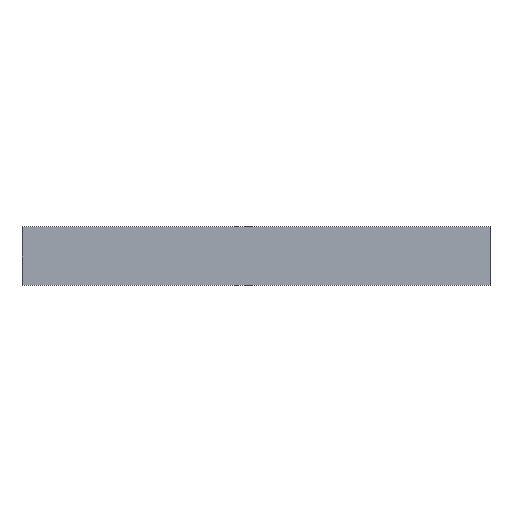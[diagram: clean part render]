
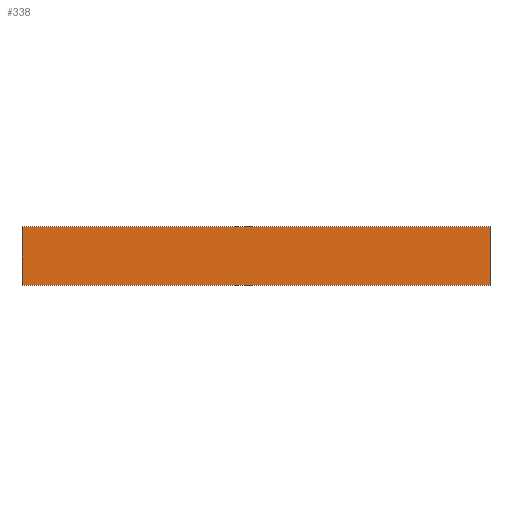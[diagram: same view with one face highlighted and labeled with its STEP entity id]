
A CAD part, top view. The second image highlights one B-rep face of the part: STEP entity #338.
In plain terms, the highlighted planar face has unit normal (0, 0, 1).
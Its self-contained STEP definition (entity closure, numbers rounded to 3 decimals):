
#24 = VERTEX_POINT('',#25);
#25 = CARTESIAN_POINT('',(-595.,-75.,6.));
#32 = PLANE('',#33);
#33 = AXIS2_PLACEMENT_3D('',#34,#35,#36);
#34 = CARTESIAN_POINT('',(-595.,-75.,0.));
#35 = DIRECTION('',(0.,1.,0.));
#36 = DIRECTION('',(1.,0.,0.));
#44 = PLANE('',#45);
#45 = AXIS2_PLACEMENT_3D('',#46,#47,#48);
#46 = CARTESIAN_POINT('',(-595.,75.,0.));
#47 = DIRECTION('',(1.,0.,-0.));
#48 = DIRECTION('',(0.,-1.,0.));
#56 = EDGE_CURVE('',#24,#57,#59,.T.);
#57 = VERTEX_POINT('',#58);
#58 = CARTESIAN_POINT('',(595.,-75.,6.));
#59 = SURFACE_CURVE('',#60,(#64,#71),.PCURVE_S1.);
#60 = LINE('',#61,#62);
#61 = CARTESIAN_POINT('',(-595.,-75.,6.));
#62 = VECTOR('',#63,1.);
#63 = DIRECTION('',(1.,0.,0.));
#64 = PCURVE('',#32,#65);
#65 = DEFINITIONAL_REPRESENTATION('',(#66),#70);
#66 = LINE('',#67,#68);
#67 = CARTESIAN_POINT('',(0.,-6.));
#68 = VECTOR('',#69,1.);
#69 = DIRECTION('',(1.,0.));
#70 = ( GEOMETRIC_REPRESENTATION_CONTEXT(2) 
PARAMETRIC_REPRESENTATION_CONTEXT() REPRESENTATION_CONTEXT('2D SPACE',''
  ) );
#71 = PCURVE('',#72,#77);
#72 = PLANE('',#73);
#73 = AXIS2_PLACEMENT_3D('',#74,#75,#76);
#74 = CARTESIAN_POINT('',(0.,0.,6.));
#75 = DIRECTION('',(0.,0.,1.));
#76 = DIRECTION('',(1.,0.,-0.));
#77 = DEFINITIONAL_REPRESENTATION('',(#78),#82);
#78 = LINE('',#79,#80);
#79 = CARTESIAN_POINT('',(-595.,-75.));
#80 = VECTOR('',#81,1.);
#81 = DIRECTION('',(1.,0.));
#82 = ( GEOMETRIC_REPRESENTATION_CONTEXT(2) 
PARAMETRIC_REPRESENTATION_CONTEXT() REPRESENTATION_CONTEXT('2D SPACE',''
  ) );
#100 = PLANE('',#101);
#101 = AXIS2_PLACEMENT_3D('',#102,#103,#104);
#102 = CARTESIAN_POINT('',(595.,-75.,0.));
#103 = DIRECTION('',(-1.,0.,0.));
#104 = DIRECTION('',(0.,1.,0.));
#142 = EDGE_CURVE('',#57,#143,#145,.T.);
#143 = VERTEX_POINT('',#144);
#144 = CARTESIAN_POINT('',(595.,75.,6.));
#145 = SURFACE_CURVE('',#146,(#150,#157),.PCURVE_S1.);
#146 = LINE('',#147,#148);
#147 = CARTESIAN_POINT('',(595.,-75.,6.));
#148 = VECTOR('',#149,1.);
#149 = DIRECTION('',(0.,1.,0.));
#150 = PCURVE('',#100,#151);
#151 = DEFINITIONAL_REPRESENTATION('',(#152),#156);
#152 = LINE('',#153,#154);
#153 = CARTESIAN_POINT('',(0.,-6.));
#154 = VECTOR('',#155,1.);
#155 = DIRECTION('',(1.,0.));
#156 = ( GEOMETRIC_REPRESENTATION_CONTEXT(2) 
PARAMETRIC_REPRESENTATION_CONTEXT() REPRESENTATION_CONTEXT('2D SPACE',''
  ) );
#157 = PCURVE('',#72,#158);
#158 = DEFINITIONAL_REPRESENTATION('',(#159),#163);
#159 = LINE('',#160,#161);
#160 = CARTESIAN_POINT('',(595.,-75.));
#161 = VECTOR('',#162,1.);
#162 = DIRECTION('',(0.,1.));
#163 = ( GEOMETRIC_REPRESENTATION_CONTEXT(2) 
PARAMETRIC_REPRESENTATION_CONTEXT() REPRESENTATION_CONTEXT('2D SPACE',''
  ) );
#181 = PLANE('',#182);
#182 = AXIS2_PLACEMENT_3D('',#183,#184,#185);
#183 = CARTESIAN_POINT('',(595.,75.,0.));
#184 = DIRECTION('',(0.,-1.,0.));
#185 = DIRECTION('',(-1.,0.,0.));
#218 = EDGE_CURVE('',#143,#219,#221,.T.);
#219 = VERTEX_POINT('',#220);
#220 = CARTESIAN_POINT('',(-595.,75.,6.));
#221 = SURFACE_CURVE('',#222,(#226,#233),.PCURVE_S1.);
#222 = LINE('',#223,#224);
#223 = CARTESIAN_POINT('',(595.,75.,6.));
#224 = VECTOR('',#225,1.);
#225 = DIRECTION('',(-1.,0.,0.));
#226 = PCURVE('',#181,#227);
#227 = DEFINITIONAL_REPRESENTATION('',(#228),#232);
#228 = LINE('',#229,#230);
#229 = CARTESIAN_POINT('',(0.,-6.));
#230 = VECTOR('',#231,1.);
#231 = DIRECTION('',(1.,0.));
#232 = ( GEOMETRIC_REPRESENTATION_CONTEXT(2) 
PARAMETRIC_REPRESENTATION_CONTEXT() REPRESENTATION_CONTEXT('2D SPACE',''
  ) );
#233 = PCURVE('',#72,#234);
#234 = DEFINITIONAL_REPRESENTATION('',(#235),#239);
#235 = LINE('',#236,#237);
#236 = CARTESIAN_POINT('',(595.,75.));
#237 = VECTOR('',#238,1.);
#238 = DIRECTION('',(-1.,0.));
#239 = ( GEOMETRIC_REPRESENTATION_CONTEXT(2) 
PARAMETRIC_REPRESENTATION_CONTEXT() REPRESENTATION_CONTEXT('2D SPACE',''
  ) );
#289 = EDGE_CURVE('',#219,#24,#290,.T.);
#290 = SURFACE_CURVE('',#291,(#295,#302),.PCURVE_S1.);
#291 = LINE('',#292,#293);
#292 = CARTESIAN_POINT('',(-595.,75.,6.));
#293 = VECTOR('',#294,1.);
#294 = DIRECTION('',(0.,-1.,0.));
#295 = PCURVE('',#44,#296);
#296 = DEFINITIONAL_REPRESENTATION('',(#297),#301);
#297 = LINE('',#298,#299);
#298 = CARTESIAN_POINT('',(0.,-6.));
#299 = VECTOR('',#300,1.);
#300 = DIRECTION('',(1.,0.));
#301 = ( GEOMETRIC_REPRESENTATION_CONTEXT(2) 
PARAMETRIC_REPRESENTATION_CONTEXT() REPRESENTATION_CONTEXT('2D SPACE',''
  ) );
#302 = PCURVE('',#72,#303);
#303 = DEFINITIONAL_REPRESENTATION('',(#304),#308);
#304 = LINE('',#305,#306);
#305 = CARTESIAN_POINT('',(-595.,75.));
#306 = VECTOR('',#307,1.);
#307 = DIRECTION('',(0.,-1.));
#308 = ( GEOMETRIC_REPRESENTATION_CONTEXT(2) 
PARAMETRIC_REPRESENTATION_CONTEXT() REPRESENTATION_CONTEXT('2D SPACE',''
  ) );
#338 = ADVANCED_FACE('',(#339),#72,.T.);
#339 = FACE_BOUND('',#340,.T.);
#340 = EDGE_LOOP('',(#341,#342,#343,#344));
#341 = ORIENTED_EDGE('',*,*,#56,.T.);
#342 = ORIENTED_EDGE('',*,*,#142,.T.);
#343 = ORIENTED_EDGE('',*,*,#218,.T.);
#344 = ORIENTED_EDGE('',*,*,#289,.T.);
